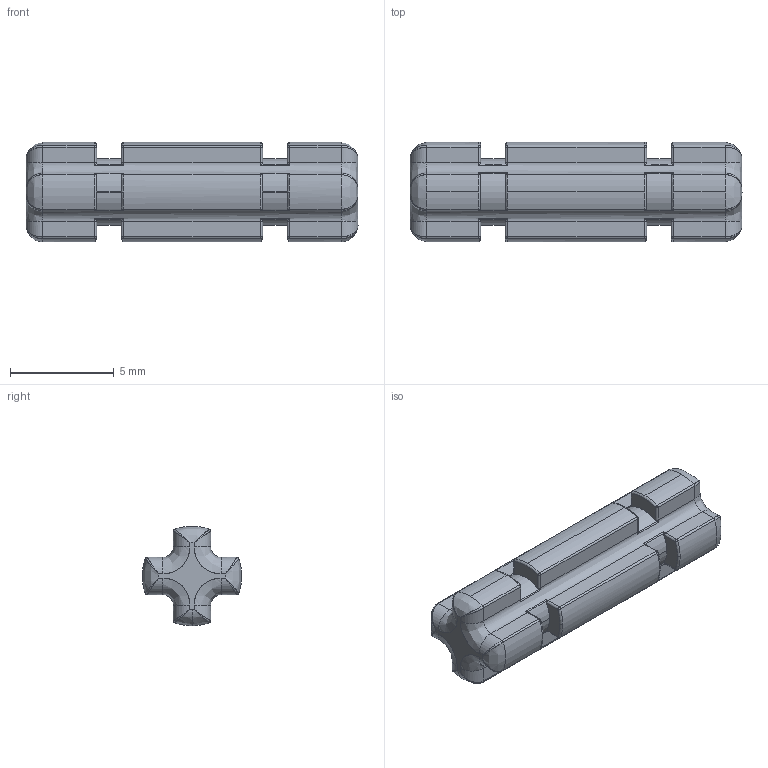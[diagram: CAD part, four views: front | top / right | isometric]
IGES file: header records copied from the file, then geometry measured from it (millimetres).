
Start section: SolidWorks IGES file using analytic representation for surfaces
Global section: file name: C:\Users\PC\Desktop\Lego Technik Gear and Axles\Axles\STEP, IGES, STL\32062 Black Technic Axle 2 Notched.IGS; native system: SolidWorks 2014; preprocessor: SolidWorks 2014; author: PC; date: 150218.233838; units: millimetre
Bounding box: 16 x 4.8 x 4.8 mm (x, y, z)
Surface area: 292.1 mm2 (no closed solid volume)
Topology: 0 solids, 0 shells, 277 faces, 1762 edges, 1730 vertices
Faces by surface type: revolution 149, bspline 128
